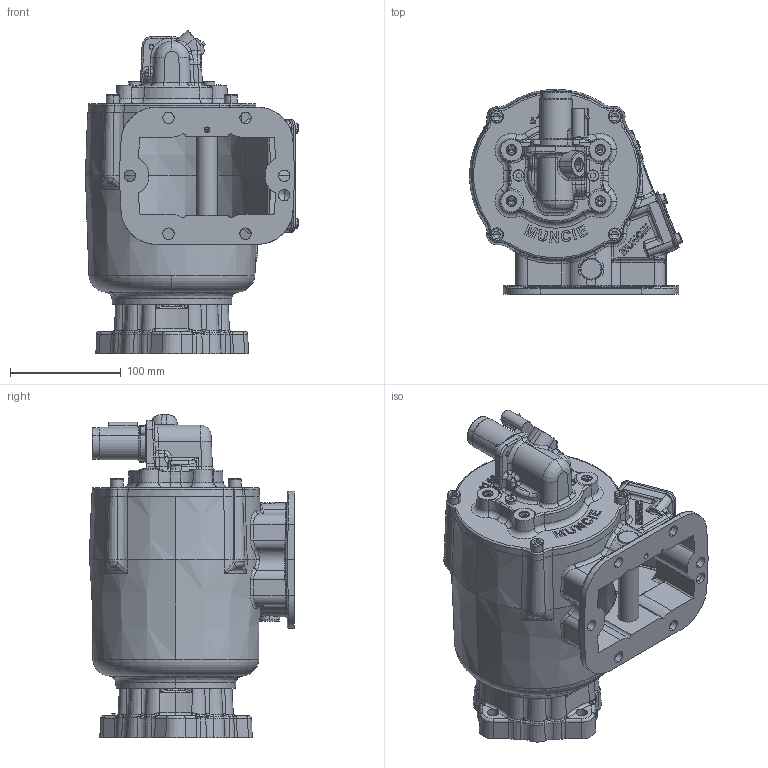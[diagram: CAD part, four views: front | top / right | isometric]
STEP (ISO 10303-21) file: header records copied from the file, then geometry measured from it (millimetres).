
FILE_DESCRIPTION (( 'STEP AP203' ), '1' );
FILE_NAME ('CS6S-A67XX-S1DP.STEP', '2023-04-24T20:28:03', ( '' ), ( '' ), 'SwSTEP 2.0', 'SolidWorks 2021', '' );
FILE_SCHEMA (( 'CONFIG_CONTROL_DESIGN' ));
Length unit declared in the file: millimetre
Products named in the file (17): 07T37071; 27T36173_Free Length; 35T40860; 12T34003; 16T41119; 14T39406; 01T37073; 12T36751; 25T21684; 15T41597; 19T41969; 12T35949; 19T35237; 19T36082; 19T41118; CS6S-A67XX-S1DP; 19T40859
Assembly tree (32 placements, depth 2):
  CS6S-A67XX-S1DP
    01T37073
    16T41119
    19T41118  x4
    12T34003
    19T35237  x4
    12T36751
    07T37071
    12T35949  x2
    27T36173_Free Length  x4
    25T21684  x2
    15T41597
    19T41969  x4
    35T40860
    19T40859  x2
    19T36082  x2
    14T39406
Bounding box: 192.82 x 185.25 x 292.61 mm (x, y, z)
Volume: 1337546.2 mm3; surface area: 415113.3 mm2
Topology: 32 solids, 32 shells, 2461 faces, 6122 edges, 3722 vertices
Faces by surface type: bspline 661, plane 647, cylinder 599, cone 348, torus 188, sphere 18
Entity records: 126269 total; most frequent: CARTESIAN_POINT 76343, ORIENTED_EDGE 10914, DIRECTION 8497, EDGE_CURVE 5457, VERTEX_POINT 3371, AXIS2_PLACEMENT_3D 3288, EDGE_LOOP 2376, FACE_OUTER_BOUND 2187
